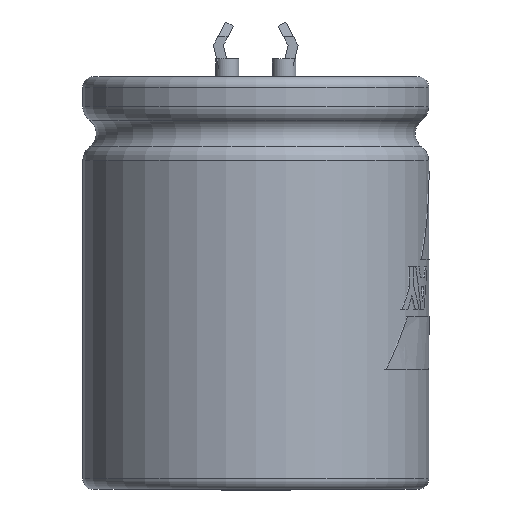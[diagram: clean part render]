
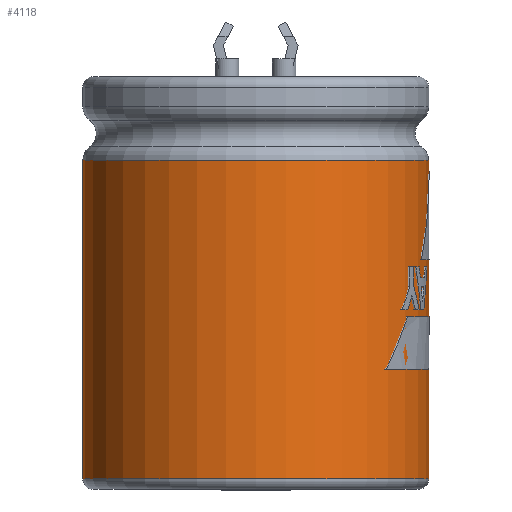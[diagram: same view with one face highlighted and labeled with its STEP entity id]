
A CAD part, left-side view. The second image highlights one B-rep face of the part: STEP entity #4118.
In plain terms, the highlighted cylindrical face has radius 15.5 mm (diameter 31 mm), a full revolution.
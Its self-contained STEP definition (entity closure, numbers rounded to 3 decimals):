
#4050 = TOROIDAL_SURFACE('',#4051,14.,1.5);
#4051 = AXIS2_PLACEMENT_3D('',#4052,#4053,#4054);
#4052 = CARTESIAN_POINT('',(0.,0.,-6.55));
#4053 = DIRECTION('',(0.,0.,1.));
#4054 = DIRECTION('',(1.,0.,0.));
#4066 = EDGE_CURVE('',#4067,#4067,#4069,.T.);
#4067 = VERTEX_POINT('',#4068);
#4068 = CARTESIAN_POINT('',(15.5,0.,-6.55));
#4069 = SURFACE_CURVE('',#4070,(#4075,#4082),.PCURVE_S1.);
#4070 = CIRCLE('',#4071,15.5);
#4071 = AXIS2_PLACEMENT_3D('',#4072,#4073,#4074);
#4072 = CARTESIAN_POINT('',(0.,0.,-6.55));
#4073 = DIRECTION('',(0.,0.,1.));
#4074 = DIRECTION('',(1.,0.,0.));
#4075 = PCURVE('',#4050,#4076);
#4076 = DEFINITIONAL_REPRESENTATION('',(#4077),#4081);
#4077 = LINE('',#4078,#4079);
#4078 = CARTESIAN_POINT('',(0.,6.283));
#4079 = VECTOR('',#4080,1.);
#4080 = DIRECTION('',(1.,0.));
#4081 = ( GEOMETRIC_REPRESENTATION_CONTEXT(2) 
PARAMETRIC_REPRESENTATION_CONTEXT() REPRESENTATION_CONTEXT('2D SPACE',''
  ) );
#4082 = PCURVE('',#4083,#4088);
#4083 = CYLINDRICAL_SURFACE('',#4084,15.5);
#4084 = AXIS2_PLACEMENT_3D('',#4085,#4086,#4087);
#4085 = CARTESIAN_POINT('',(0.,0.,-35.1));
#4086 = DIRECTION('',(0.,0.,1.));
#4087 = DIRECTION('',(1.,0.,0.));
#4088 = DEFINITIONAL_REPRESENTATION('',(#4089),#4093);
#4089 = LINE('',#4090,#4091);
#4090 = CARTESIAN_POINT('',(0.,28.55));
#4091 = VECTOR('',#4092,1.);
#4092 = DIRECTION('',(1.,0.));
#4093 = ( GEOMETRIC_REPRESENTATION_CONTEXT(2) 
PARAMETRIC_REPRESENTATION_CONTEXT() REPRESENTATION_CONTEXT('2D SPACE',''
  ) );
#4118 = ADVANCED_FACE('',(#4119),#4083,.T.);
#4119 = FACE_BOUND('',#4120,.T.);
#4120 = EDGE_LOOP('',(#4121,#4150,#4171,#4172));
#4121 = ORIENTED_EDGE('',*,*,#4122,.T.);
#4122 = EDGE_CURVE('',#4123,#4123,#4125,.T.);
#4123 = VERTEX_POINT('',#4124);
#4124 = CARTESIAN_POINT('',(15.5,0.,-35.1));
#4125 = SURFACE_CURVE('',#4126,(#4131,#4138),.PCURVE_S1.);
#4126 = CIRCLE('',#4127,15.5);
#4127 = AXIS2_PLACEMENT_3D('',#4128,#4129,#4130);
#4128 = CARTESIAN_POINT('',(0.,0.,-35.1));
#4129 = DIRECTION('',(0.,0.,1.));
#4130 = DIRECTION('',(1.,0.,0.));
#4131 = PCURVE('',#4083,#4132);
#4132 = DEFINITIONAL_REPRESENTATION('',(#4133),#4137);
#4133 = LINE('',#4134,#4135);
#4134 = CARTESIAN_POINT('',(0.,0.));
#4135 = VECTOR('',#4136,1.);
#4136 = DIRECTION('',(1.,0.));
#4137 = ( GEOMETRIC_REPRESENTATION_CONTEXT(2) 
PARAMETRIC_REPRESENTATION_CONTEXT() REPRESENTATION_CONTEXT('2D SPACE',''
  ) );
#4138 = PCURVE('',#4139,#4144);
#4139 = TOROIDAL_SURFACE('',#4140,14.55,0.95);
#4140 = AXIS2_PLACEMENT_3D('',#4141,#4142,#4143);
#4141 = CARTESIAN_POINT('',(0.,0.,-35.1));
#4142 = DIRECTION('',(0.,0.,1.));
#4143 = DIRECTION('',(1.,0.,0.));
#4144 = DEFINITIONAL_REPRESENTATION('',(#4145),#4149);
#4145 = LINE('',#4146,#4147);
#4146 = CARTESIAN_POINT('',(0.,6.283));
#4147 = VECTOR('',#4148,1.);
#4148 = DIRECTION('',(1.,0.));
#4149 = ( GEOMETRIC_REPRESENTATION_CONTEXT(2) 
PARAMETRIC_REPRESENTATION_CONTEXT() REPRESENTATION_CONTEXT('2D SPACE',''
  ) );
#4150 = ORIENTED_EDGE('',*,*,#4151,.T.);
#4151 = EDGE_CURVE('',#4123,#4067,#4152,.T.);
#4152 = SEAM_CURVE('',#4153,(#4157,#4164),.PCURVE_S1.);
#4153 = LINE('',#4154,#4155);
#4154 = CARTESIAN_POINT('',(15.5,0.,-35.1));
#4155 = VECTOR('',#4156,1.);
#4156 = DIRECTION('',(0.,0.,1.));
#4157 = PCURVE('',#4083,#4158);
#4158 = DEFINITIONAL_REPRESENTATION('',(#4159),#4163);
#4159 = LINE('',#4160,#4161);
#4160 = CARTESIAN_POINT('',(0.,0.));
#4161 = VECTOR('',#4162,1.);
#4162 = DIRECTION('',(0.,1.));
#4163 = ( GEOMETRIC_REPRESENTATION_CONTEXT(2) 
PARAMETRIC_REPRESENTATION_CONTEXT() REPRESENTATION_CONTEXT('2D SPACE',''
  ) );
#4164 = PCURVE('',#4083,#4165);
#4165 = DEFINITIONAL_REPRESENTATION('',(#4166),#4170);
#4166 = LINE('',#4167,#4168);
#4167 = CARTESIAN_POINT('',(6.283,0.));
#4168 = VECTOR('',#4169,1.);
#4169 = DIRECTION('',(0.,1.));
#4170 = ( GEOMETRIC_REPRESENTATION_CONTEXT(2) 
PARAMETRIC_REPRESENTATION_CONTEXT() REPRESENTATION_CONTEXT('2D SPACE',''
  ) );
#4171 = ORIENTED_EDGE('',*,*,#4066,.F.);
#4172 = ORIENTED_EDGE('',*,*,#4151,.F.);
